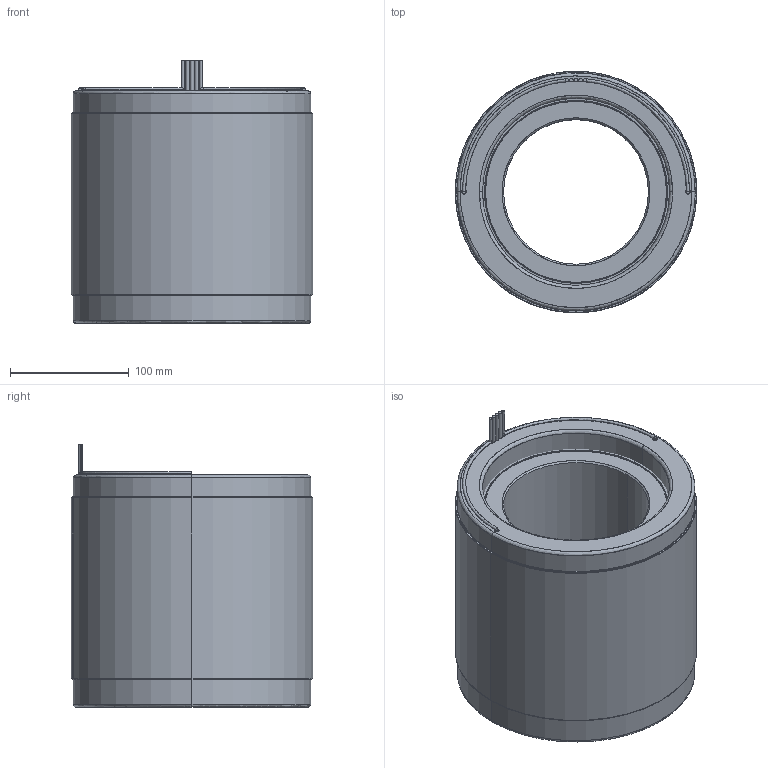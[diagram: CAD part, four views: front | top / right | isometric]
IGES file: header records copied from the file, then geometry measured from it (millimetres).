
Start section: SolidWorks IGES file using analytic representation for surfaces
Global section: file name: Z:\STANDARD STATOR ROTOR SETS\NEW DIRECT DRIVE MOTOR\8 OD 18S16P\6100337-05.IGS; native system: SolidWorks 2016; preprocessor: SolidWorks 2016; author: eng; date: 191023.160752; units: millimetre
Bounding box: 203.2 x 203.19 x 220.98 mm (x, y, z)
Surface area: 696290 mm2 (no closed solid volume)
Topology: 0 solids, 0 shells, 105 faces, 2710 edges, 2710 vertices
Faces by surface type: revolution 63, bspline 42
